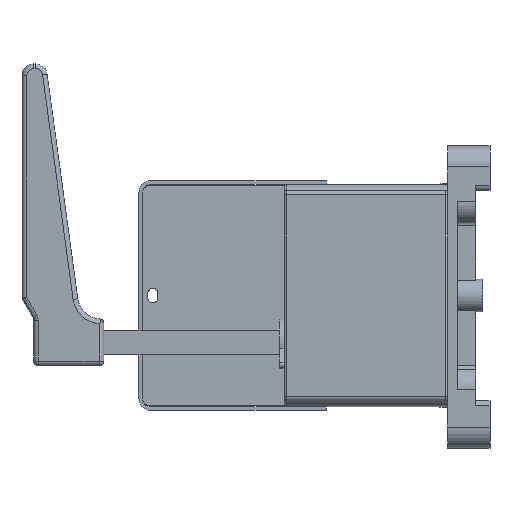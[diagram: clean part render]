
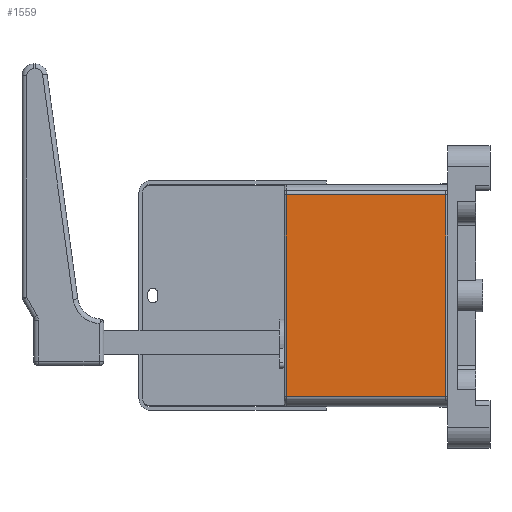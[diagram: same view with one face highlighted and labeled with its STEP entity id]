
A CAD part, left-side view. The second image highlights one B-rep face of the part: STEP entity #1559.
In plain terms, the highlighted planar face has unit normal (-1, 0, 0).
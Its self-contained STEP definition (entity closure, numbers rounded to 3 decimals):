
#1559=ADVANCED_FACE('',(#2941),#2132,.F.);
#2132=PLANE('',#18879);
#2941=FACE_OUTER_BOUND('',#3991,.T.);
#3991=EDGE_LOOP('',(#9302,#9303,#9304,#9305));
#9302=ORIENTED_EDGE('',*,*,#13764,.F.);
#9303=ORIENTED_EDGE('',*,*,#13750,.T.);
#9304=ORIENTED_EDGE('',*,*,#13765,.T.);
#9305=ORIENTED_EDGE('',*,*,#13463,.T.);
#11153=VERTEX_POINT('',#28198);
#11155=VERTEX_POINT('',#28204);
#11323=VERTEX_POINT('',#28863);
#11326=VERTEX_POINT('',#28894);
#13463=EDGE_CURVE('',#11153,#11155,#15402,.T.);
#13750=EDGE_CURVE('',#11323,#11326,#15537,.T.);
#13764=EDGE_CURVE('',#11323,#11155,#15543,.T.);
#13765=EDGE_CURVE('',#11326,#11153,#15544,.T.);
#15402=LINE('',#28205,#17157);
#15537=LINE('',#28895,#17292);
#15543=LINE('',#28946,#17298);
#15544=LINE('',#28948,#17299);
#17157=VECTOR('',#22989,1.);
#17292=VECTOR('',#23632,1.);
#17298=VECTOR('',#23658,1.);
#17299=VECTOR('',#23661,1.);
#18879=AXIS2_PLACEMENT_3D('',#28949,#23662,#23663);
#22989=DIRECTION('',(0.,0.,1.));
#23632=DIRECTION('',(0.,0.,-1.));
#23658=DIRECTION('',(0.,-1.,0.));
#23661=DIRECTION('',(0.,-1.,0.));
#23662=DIRECTION('',(1.,0.,0.));
#23663=DIRECTION('',(0.,0.,-1.));
#28198=CARTESIAN_POINT('',(-41.,1.,-43.));
#28204=CARTESIAN_POINT('',(-41.,1.,43.));
#28205=CARTESIAN_POINT('',(-41.,1.,-43.));
#28863=CARTESIAN_POINT('',(-41.,69.,43.));
#28894=CARTESIAN_POINT('',(-41.,69.,-43.));
#28895=CARTESIAN_POINT('',(-41.,69.,-43.));
#28946=CARTESIAN_POINT('',(-41.,35.,43.));
#28948=CARTESIAN_POINT('',(-41.,35.,-43.));
#28949=CARTESIAN_POINT('',(-41.,35.,-43.));
